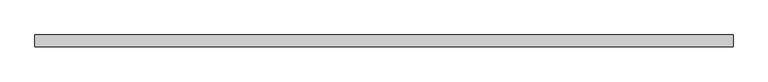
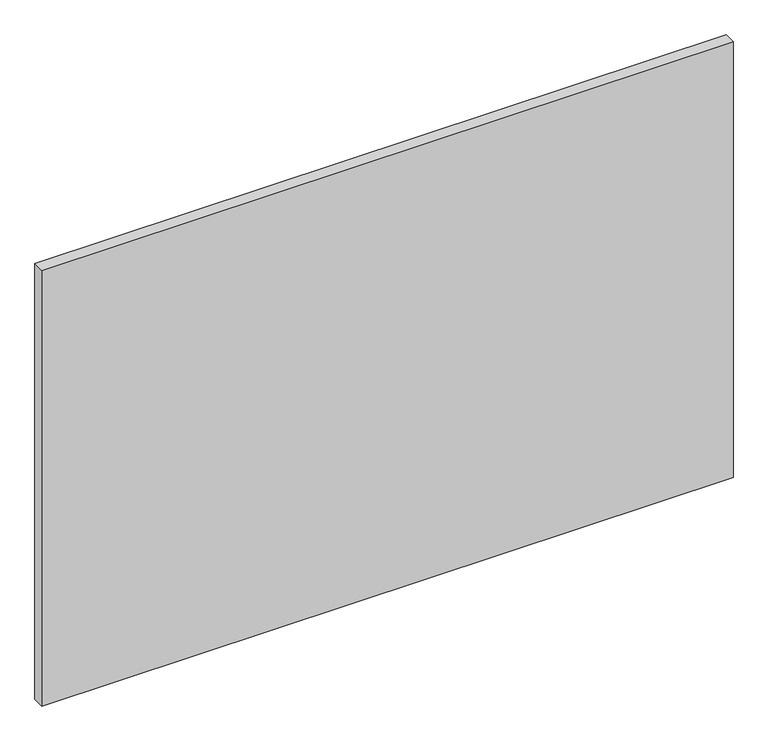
"""IFC4 building model written with IfcOpenShell, lengths in millimetres: proxy geometry, FOUNDATION^TABLE 5_60x180 ANGLE BASES-RIGHT TOP."""

from ifc_helpers import new_model, si_unit, frame, origin, place, context, project, spatial, polyline, outline, extrude, source, transform, mapped, element, save


def generic_models_82c49c89(model_context):
    return source(origin(), model_context, "Body", "SweptSolid", [
        extrude(outline(polyline([(4572.0, 0.0), (2286.0, 0.0), (2286.0, 38.1), (4572.0, 38.1), (4572.0, 0.0)])), frame((0.0, 0.0, -1524.0), z_axis=(0.0, 0.0, 1.0), x_axis=(1.0, 0.0, 0.0)), (0.0, 0.0, 1.0), 1524.0),
    ])


if __name__ == "__main__":
    model = new_model("IFC4")
    model_context = context("Model", 3, world=origin())
    ifc_project = project(units=[si_unit("LENGTHUNIT", "METRE", prefix="MILLI")], contexts=[model_context])
    site = spatial("IfcSite", under=ifc_project)
    building = spatial("IfcBuilding", under=site)
    placement = place(None, origin())
    generic_models_shape = generic_models_82c49c89(model_context)
    element("IfcBuildingElementProxy", 1, Name="FOUNDATION^TABLE 5_60x180 ANGLE BASES-RIGHT TOP", ObjectType="FOUNDATION^TABLE 5_60x180 ANGLE BASES-RIGHT TOP", at=placement, inside=building, context=model_context, shape_type="MappedRepresentation", body=[
        mapped(generic_models_shape, transform((0.0, 0.0, 0.0), x_axis=(1.0, 0.0, 0.0), y_axis=(0.0, 1.0, 0.0), z_axis=(0.0, 0.0, 1.0))),
    ])
    save(model, "model.ifc")
